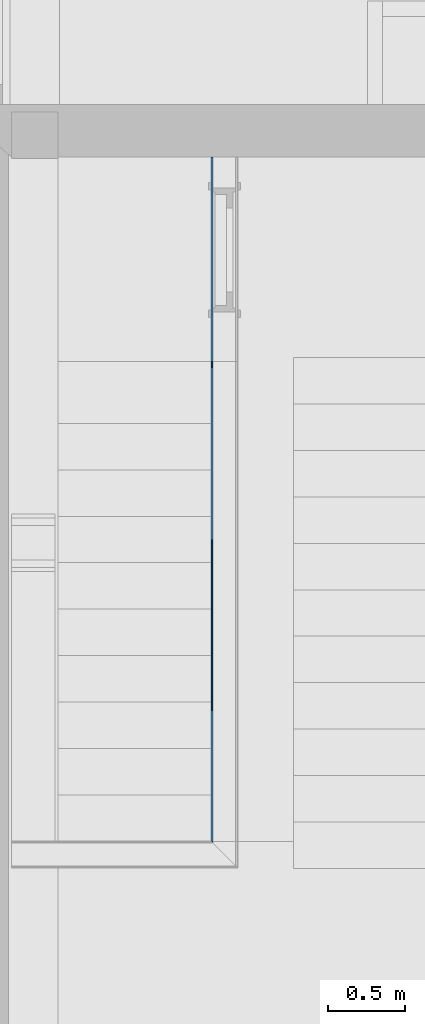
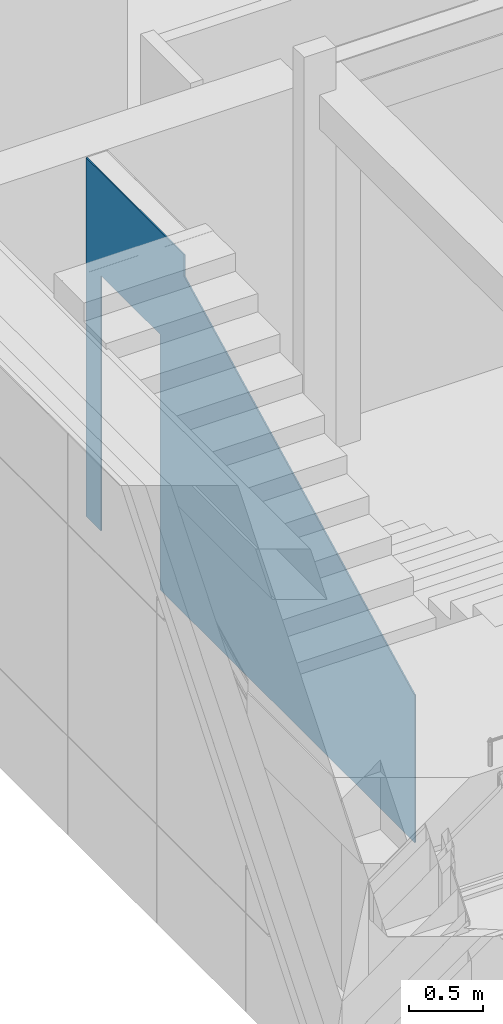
# One storey, part 111 of 418: 1 building element part, 1 opening, 1 element without a shape of its own.
"""IFC2X3 building model written with IfcOpenShell, lengths in millimetres."""

from ifc_helpers import new_model, entity, si_unit, converted_unit, derived_unit, money_unit, direction, frame, origin_with_axes, origin_2d_with_axis, place, context, subcontext, project, spatial, polyline, rectangle, outline, extrude, boolean, faceted_brep, material, type_object, element, aggregate, save


model = new_model("IFC2X3")

# Units and contexts
model_context = context("Model", 3, precision=0.01, world=origin_with_axes(), true_north=direction((0.0, 1.0)))
body_context = subcontext(model_context, "Body", "Model", "MODEL_VIEW")
ifc_project = project(units=[si_unit("LENGTHUNIT", "METRE", prefix="MILLI"), si_unit("AREAUNIT", "SQUARE_METRE"), si_unit("VOLUMEUNIT", "CUBIC_METRE"), converted_unit("PLANEANGLEUNIT", "DEGREE", entity("IfcPlaneAngleMeasure", 0.0174532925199), si_unit("PLANEANGLEUNIT", "RADIAN"), dimensions=[0, 0, 0, 0, 0, 0, 0]), si_unit("SOLIDANGLEUNIT", "STERADIAN"), money_unit("EUR"), converted_unit("TIMEUNIT", "Year", entity("IfcTimeMeasure", 31556926.0), si_unit("TIMEUNIT", "SECOND"), dimensions=[0, 0, 1, 0, 0, 0, 0]), si_unit("MASSUNIT", "GRAM", prefix="KILO"), si_unit("THERMODYNAMICTEMPERATUREUNIT", "DEGREE_CELSIUS"), si_unit("LUMINOUSINTENSITYUNIT", "LUMEN"), si_unit("ENERGYUNIT", "JOULE", prefix="MEGA"), derived_unit("THERMALCONDUCTANCEUNIT", [(si_unit("POWERUNIT", "WATT"), 1), (si_unit("LENGTHUNIT", "METRE"), -1), (si_unit("THERMODYNAMICTEMPERATUREUNIT", "KELVIN"), -1)]), derived_unit("SPECIFICHEATCAPACITYUNIT", [(si_unit("ENERGYUNIT", "JOULE"), 1), (si_unit("MASSUNIT", "GRAM", prefix="KILO"), -1), (si_unit("THERMODYNAMICTEMPERATUREUNIT", "KELVIN"), -1)]), derived_unit("MASSDENSITYUNIT", [(si_unit("MASSUNIT", "GRAM", prefix="KILO"), 1), (si_unit("VOLUMEUNIT", "CUBIC_METRE"), -1)])], contexts=[model_context])

# Site, building, storey
site_placement = place(None, origin_with_axes())
site = spatial("IfcSite", under=ifc_project, at=site_placement, Name="Paldiski mnt 245/1, Tallinn, Harjumaa", CompositionType="COMPLEX")
building_placement = place(site_placement, origin_with_axes())
building = spatial("IfcBuilding", under=site, at=building_placement, Name="RKAS Hoone üldnimetus (kasutust iseloomustav) -> IFC Project Manager -> SOLIBRI", CompositionType="ELEMENT")
storey_placement = place(building_placement, origin_with_axes())
storey = spatial("IfcBuildingStorey", under=building, at=storey_placement, Name="Esimene korrus", CompositionType="ELEMENT", Elevation=0.0)

# Wall, opening, building element part
wall_type = type_object("IfcWallType", Name="SS-04 170", PredefinedType="NOTDEFINED")
wall_placement = place(storey_placement, frame((-46130.0, -6130.08408706, 0.0), z_axis=(0.0, 0.0, 1.0), x_axis=(0.0, -1.0, 0.0)))
wall = element("IfcWall", 1, at=wall_placement, inside=storey, type_object=wall_type, Name="SS-04")
opening_placement = place(wall_placement, frame((940.0, 0.0, 0.0), z_axis=(0.0, 0.0, 1.0), x_axis=(1.0, 0.0, 0.0)))
element("IfcOpeningElement", 2, at=opening_placement, cuts=wall, Name="TSU-08v", context=body_context, shape_type="SweptSolid", body=[
    extrude(rectangle(XDim=800.0, YDim=2100.0, at=origin_2d_with_axis()), frame((0.0, -145.0, 1050.0), z_axis=(0.0, 1.0, 0.0), x_axis=(-1.0, 0.0, 0.0)), (0.0, 0.0, 1.0), 315.0),
    extrude(rectangle(XDim=800.0, YDim=2100.0, at=origin_2d_with_axis()), frame((0.0, -145.0, 1050.0), z_axis=(0.0, -1.0, 0.0), x_axis=(-1.0, 0.0, 0.0)), (0.0, 0.0, 1.0), 195.0),
    extrude(rectangle(XDim=874.0, YDim=2137.0, at=origin_2d_with_axis()), frame((0.0, 0.0, 1068.5), z_axis=(0.0, 1.0, 0.0), x_axis=(-1.0, 0.0, 0.0)), (0.0, 0.0, 1.0), 195.0),
    extrude(rectangle(XDim=874.0, YDim=2137.0, at=origin_2d_with_axis()), frame((0.0, -170.0, 1068.5), z_axis=(0.0, -1.0, 0.0), x_axis=(-1.0, 0.0, 0.0)), (0.0, 0.0, 1.0), 195.0),
])
ifc_material = material(Name="Krohv")
building_element_part_placement = place(wall_placement, origin_with_axes())
building_element_part = element("IfcBuildingElementPart", 3, at=building_element_part_placement, material=ifc_material, Name="Krohv", context=body_context, shape_type="CSG", body=[
    boolean("DIFFERENCE", boolean("DIFFERENCE", boolean("DIFFERENCE", boolean("DIFFERENCE", boolean("DIFFERENCE", boolean("DIFFERENCE", extrude(outline(polyline([(0.0, -170.0), (4930.41676623, -170.0), (4930.41676623, -160.0), (0.0, -160.0), (0.0, -170.0)])), origin_with_axes(), (0.0, 0.0, 1.0), 2950.0), faceted_brep([(1835.41676623, 0.0, 2685.9945005), (1660.416771, 0.0, 2774.02480113), (1660.416771, 0.0, 2950.0), (4930.41676623, 0.0, 2950.0), (4930.41676623, -8.31200708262e-06, 1214.63086414), (4760.41676623, 0.0, 1214.63086414), (4685.41676623, 0.0, 1252.35813686), (4660.41676623, 0.0, 1264.93389444), (4610.41676623, 0.0, 1290.08540959), (4560.41676623, 0.0, 1315.23692474), (4535.41676623, 0.0, 1327.81268232), (4460.41676623, 0.0, 1365.53995505), (4385.41676623, 0.0, 1403.26722777), (4360.41676623, 0.0, 1415.84298535), (4310.41676623, 0.0, 1440.9945005), (4260.41676623, 0.0, 1466.14601565), (4235.41676623, 0.0, 1478.72177323), (4160.41676623, 0.0, 1516.44904596), (4060.41676623, 0.0, 1566.75207626), (3960.41676623, 0.0, 1617.05510656), (3860.41676623, 0.0, 1667.35813686), (3785.41676623, 0.0, 1705.08540959), (3710.41676623, 0.0, 1742.81268232), (3635.41676623, 0.0, 1780.53995505), (3560.41676623, 0.0, 1818.26722777), (3485.41676623, 0.0, 1855.9945005), (3460.41676623, 0.0, 1868.57025808), (3410.41676623, 0.0, 1893.72177323), (3360.41676623, 0.0, 1918.87328838), (3335.41676623, 0.0, 1931.44904596), (3260.41676623, 0.0, 1969.17631868), (3160.41676623, 0.0, 2019.47934899), (3060.41676623, 0.0, 2069.78237929), (2960.41676623, 0.0, 2120.08540959), (2885.41676623, 0.0, 2157.81268232), (2810.41676623, 0.0, 2195.53995505), (2735.41676623, 0.0, 2233.26722777), (2660.41676623, 0.0, 2270.9945005), (2585.41676623, 0.0, 2308.72177323), (2560.41676623, 0.0, 2321.2975308), (2510.41676623, 0.0, 2346.44904596), (2460.41676623, 0.0, 2371.60056111), (2435.41676623, 0.0, 2384.17631868), (2360.41676623, 0.0, 2421.90359141), (2260.41676623, 0.0, 2472.20662171), (2160.41676623, 0.0, 2522.50965202), (2060.41676623, 0.0, 2572.81268232), (1985.41676623, 0.0, 2610.53995505), (1910.41676623, 0.0, 2648.26722777), (1835.41676623, -10.0, 2685.9945005), (1660.416771, -10.0, 2774.02480113), (1660.416771, -10.00000327, 2950.0), (4930.41676623, -10.0, 2950.0), (4930.41676359, -10.0000038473, 1214.63086414), (4760.41676623, -10.0000093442, 1214.63086414), (4685.41676623, -10.0, 1252.35813686), (4660.41676623, -10.0, 1264.93389444), (4610.41676623, -10.0, 1290.08540959), (4560.41676623, -10.0, 1315.23692474), (4535.41676623, -10.0, 1327.81268232), (4460.41676623, -10.0, 1365.53995505), (4385.41676623, -10.0, 1403.26722777), (4360.41676623, -10.0, 1415.84298535), (4310.41676623, -10.0, 1440.9945005), (4260.41676623, -10.0, 1466.14601565), (4235.41676623, -10.0, 1478.72177323), (4160.41676623, -10.0, 1516.44904596), (4060.41676623, -10.0, 1566.75207626), (3960.41676623, -10.0, 1617.05510656), (3860.41676623, -10.0, 1667.35813686), (3785.41676623, -10.0, 1705.08540959), (3710.41676623, -10.0, 1742.81268232), (3635.41676623, -10.0, 1780.53995505), (3560.41676623, -10.0, 1818.26722777), (3485.41676623, -10.0, 1855.9945005), (3460.41676623, -10.0, 1868.57025808), (3410.41676623, -10.0, 1893.72177323), (3360.41676623, -10.0, 1918.87328838), (3335.41676623, -10.0, 1931.44904596), (3260.41676623, -10.0, 1969.17631868), (3160.41676623, -10.0, 2019.47934899), (3060.41676623, -10.0, 2069.78237929), (2960.41676623, -10.0, 2120.08540959), (2885.41676623, -10.0, 2157.81268232), (2810.41676623, -10.0, 2195.53995505), (2735.41676623, -10.0, 2233.26722777), (2660.41676623, -10.0, 2270.9945005), (2585.41676623, -10.0, 2308.72177323), (2560.41676623, -10.0, 2321.2975308), (2510.41676623, -10.0, 2346.44904596), (2460.41676623, -10.0, 2371.60056111), (2435.41676623, -10.0, 2384.17631868), (2360.41676623, -10.0, 2421.90359141), (2260.41676623, -10.0, 2472.20662171), (2160.41676623, -10.0, 2522.50965202), (2060.41676623, -10.0, 2572.81268232), (1985.41676623, -10.0, 2610.53995505), (1910.41676623, -10.0, 2648.26722777)], [[[0, 1, 2, 3, 4, 5, 6, 7, 8, 9, 10, 11, 12, 13, 14, 15, 16, 17, 18, 19, 20, 21, 22, 23, 24, 25, 26, 27, 28, 29, 30, 31, 32, 33, 34, 35, 36, 37, 38, 39, 40, 41, 42, 43, 44, 45, 46, 47, 48]], [[1, 0, 49, 50]], [[51, 2, 1, 50]], [[2, 51, 52, 3]], [[53, 4, 3, 52]], [[5, 4, 53, 54]], [[6, 5, 54, 55]], [[7, 6, 55, 56]], [[8, 7, 56, 57]], [[9, 8, 57, 58]], [[10, 9, 58, 59]], [[11, 10, 59, 60]], [[12, 11, 60, 61]], [[13, 12, 61, 62]], [[14, 13, 62, 63]], [[15, 14, 63, 64]], [[16, 15, 64, 65]], [[17, 16, 65, 66]], [[18, 17, 66, 67]], [[19, 18, 67, 68]], [[20, 19, 68, 69]], [[21, 20, 69, 70]], [[22, 21, 70, 71]], [[23, 22, 71, 72]], [[24, 23, 72, 73]], [[25, 24, 73, 74]], [[26, 25, 74, 75]], [[27, 26, 75, 76]], [[28, 27, 76, 77]], [[29, 28, 77, 78]], [[30, 29, 78, 79]], [[31, 30, 79, 80]], [[32, 31, 80, 81]], [[33, 32, 81, 82]], [[34, 33, 82, 83]], [[35, 34, 83, 84]], [[36, 35, 84, 85]], [[37, 36, 85, 86]], [[38, 37, 86, 87]], [[39, 38, 87, 88]], [[40, 39, 88, 89]], [[41, 40, 89, 90]], [[42, 41, 90, 91]], [[43, 42, 91, 92]], [[44, 43, 92, 93]], [[45, 44, 93, 94]], [[46, 45, 94, 95]], [[47, 46, 95, 96]], [[48, 47, 96, 97]], [[0, 48, 97, 49]], [[53, 52, 51, 50, 49, 97, 96, 95, 94, 93, 92, 91, 90, 89, 88, 87, 86, 85, 84, 83, 82, 81, 80, 79, 78, 77, 76, 75, 74, 73, 72, 71, 70, 69, 68, 67, 66, 65, 64, 63, 62, 61, 60, 59, 58, 57, 56, 55, 54]]])), faceted_brep([(340.0, -10.0000008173, 2950.0), (340.0, -7.27034432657e-07, 2950.0), (0.0, 0.0, 2950.0), (0.0, -10.0, 2950.0), (340.0, 0.0, 0.0), (340.0, -9.99999999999, 0.0), (0.0, 0.0, 0.0), (0.0, -10.0, 0.0)], [[[0, 1, 2, 3]], [[4, 1, 0, 5]], [[1, 4, 6, 2]], [[2, 6, 7, 3]], [[5, 0, 3, 7]], [[4, 5, 7, 6]]])), faceted_brep([(1835.41676623, -10.0, 2685.9945005), (1660.416771, -10.0, 2774.02480113), (1660.416771, -10.00000327, 2950.0), (4930.41676623, -10.0, 2950.0), (4930.41676623, -10.0, 0.0), (4920.41676623, -9.99999999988, 0.0), (4920.41676623, -10.0000093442, 1214.63086414), (4760.41676623, -10.0000093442, 1214.63086414), (4685.41676623, -10.0, 1252.35813686), (4660.41676623, -10.0, 1264.93389444), (4610.41676623, -10.0, 1290.08540959), (4560.41676623, -10.0, 1315.23692474), (4535.41676623, -10.0, 1327.81268232), (4460.41676623, -10.0, 1365.53995505), (4385.41676623, -10.0, 1403.26722777), (4360.41676623, -10.0, 1415.84298535), (4310.41676623, -10.0, 1440.9945005), (4260.41676623, -10.0, 1466.14601565), (4235.41676623, -10.0, 1478.72177323), (4160.41676623, -10.0, 1516.44904596), (4060.41676623, -10.0, 1566.75207626), (3960.41676623, -10.0, 1617.05510656), (3860.41676623, -10.0, 1667.35813686), (3785.41676623, -10.0, 1705.08540959), (3710.41676623, -10.0, 1742.81268232), (3635.41676623, -10.0, 1780.53995505), (3560.41676623, -10.0, 1818.26722777), (3485.41676623, -10.0, 1855.9945005), (3460.41676623, -10.0, 1868.57025808), (3410.41676623, -10.0, 1893.72177323), (3360.41676623, -10.0, 1918.87328838), (3335.41676623, -10.0, 1931.44904596), (3260.41676623, -10.0, 1969.17631868), (3160.41676623, -10.0, 2019.47934899), (3060.41676623, -10.0, 2069.78237929), (2960.41676623, -10.0, 2120.08540959), (2885.41676623, -10.0, 2157.81268232), (2810.41676623, -10.0, 2195.53995505), (2735.41676623, -10.0, 2233.26722777), (2660.41676623, -10.0, 2270.9945005), (2585.41676623, -10.0, 2308.72177323), (2560.41676623, -10.0, 2321.2975308), (2510.41676623, -10.0, 2346.44904596), (2460.41676623, -10.0, 2371.60056111), (2435.41676623, -10.0, 2384.17631868), (2360.41676623, -10.0, 2421.90359141), (2260.41676623, -10.0, 2472.20662171), (2160.41676623, -10.0, 2522.50965202), (2060.41676623, -10.0, 2572.81268232), (1985.41676623, -10.0, 2610.53995505), (1910.41676623, -10.0, 2648.26722777), (1835.41676623, -160.0, 2685.9945005), (1660.416771, -160.0, 2774.02480113), (1660.416771, -159.999999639, 2950.0), (4930.41676623, -160.0, 2950.0), (4930.41676623, -160.0, 0.0), (4920.41676623, -160.0, 0.0), (4920.41676623, -159.999998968, 1214.63086414), (4760.41676623, -159.999998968, 1214.63086414), (4685.41676623, -160.0, 1252.35813686), (4660.41676623, -160.0, 1264.93389444), (4610.41676623, -160.0, 1290.08540959), (4560.41676623, -160.0, 1315.23692474), (4535.41676623, -160.0, 1327.81268232), (4460.41676623, -160.0, 1365.53995505), (4385.41676623, -160.0, 1403.26722777), (4360.41676623, -160.0, 1415.84298535), (4310.41676623, -160.0, 1440.9945005), (4260.41676623, -160.0, 1466.14601565), (4235.41676623, -160.0, 1478.72177323), (4160.41676623, -160.0, 1516.44904596), (4060.41676623, -160.0, 1566.75207626), (3960.41676623, -160.0, 1617.05510656), (3860.41676623, -160.0, 1667.35813686), (3785.41676623, -160.0, 1705.08540959), (3710.41676623, -160.0, 1742.81268232), (3635.41676623, -160.0, 1780.53995505), (3560.41676623, -160.0, 1818.26722777), (3485.41676623, -160.0, 1855.9945005), (3460.41676623, -160.0, 1868.57025808), (3410.41676623, -160.0, 1893.72177323), (3360.41676623, -160.0, 1918.87328838), (3335.41676623, -160.0, 1931.44904596), (3260.41676623, -160.0, 1969.17631868), (3160.41676623, -160.0, 2019.47934899), (3060.41676623, -160.0, 2069.78237929), (2960.41676623, -160.0, 2120.08540959), (2885.41676623, -160.0, 2157.81268232), (2810.41676623, -160.0, 2195.53995505), (2735.41676623, -160.0, 2233.26722777), (2660.41676623, -160.0, 2270.9945005), (2585.41676623, -160.0, 2308.72177323), (2560.41676623, -160.0, 2321.2975308), (2510.41676623, -160.0, 2346.44904596), (2460.41676623, -160.0, 2371.60056111), (2435.41676623, -160.0, 2384.17631868), (2360.41676623, -160.0, 2421.90359141), (2260.41676623, -160.0, 2472.20662171), (2160.41676623, -160.0, 2522.50965202), (2060.41676623, -160.0, 2572.81268232), (1985.41676623, -160.0, 2610.53995505), (1910.41676623, -160.0, 2648.26722777)], [[[0, 1, 2, 3, 4, 5, 6, 7, 8, 9, 10, 11, 12, 13, 14, 15, 16, 17, 18, 19, 20, 21, 22, 23, 24, 25, 26, 27, 28, 29, 30, 31, 32, 33, 34, 35, 36, 37, 38, 39, 40, 41, 42, 43, 44, 45, 46, 47, 48, 49, 50]], [[1, 0, 51, 52]], [[53, 2, 1, 52]], [[2, 53, 54, 3]], [[54, 55, 4, 3]], [[56, 5, 4, 55]], [[6, 5, 56, 57]], [[57, 58, 7, 6]], [[8, 7, 58, 59]], [[9, 8, 59, 60]], [[10, 9, 60, 61]], [[11, 10, 61, 62]], [[12, 11, 62, 63]], [[13, 12, 63, 64]], [[14, 13, 64, 65]], [[15, 14, 65, 66]], [[16, 15, 66, 67]], [[17, 16, 67, 68]], [[18, 17, 68, 69]], [[19, 18, 69, 70]], [[20, 19, 70, 71]], [[21, 20, 71, 72]], [[22, 21, 72, 73]], [[23, 22, 73, 74]], [[24, 23, 74, 75]], [[25, 24, 75, 76]], [[26, 25, 76, 77]], [[27, 26, 77, 78]], [[28, 27, 78, 79]], [[29, 28, 79, 80]], [[30, 29, 80, 81]], [[31, 30, 81, 82]], [[32, 31, 82, 83]], [[33, 32, 83, 84]], [[34, 33, 84, 85]], [[35, 34, 85, 86]], [[36, 35, 86, 87]], [[37, 36, 87, 88]], [[38, 37, 88, 89]], [[39, 38, 89, 90]], [[40, 39, 90, 91]], [[41, 40, 91, 92]], [[42, 41, 92, 93]], [[43, 42, 93, 94]], [[44, 43, 94, 95]], [[45, 44, 95, 96]], [[46, 45, 96, 97]], [[47, 46, 97, 98]], [[48, 47, 98, 99]], [[49, 48, 99, 100]], [[50, 49, 100, 101]], [[0, 50, 101, 51]], [[57, 56, 55, 54, 53, 52, 51, 101, 100, 99, 98, 97, 96, 95, 94, 93, 92, 91, 90, 89, 88, 87, 86, 85, 84, 83, 82, 81, 80, 79, 78, 77, 76, 75, 74, 73, 72, 71, 70, 69, 68, 67, 66, 65, 64, 63, 62, 61, 60, 59, 58]]])), faceted_brep([(340.0, -159.99999991, 2950.0), (340.0, -10.0000008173, 2950.0), (0.0, -10.0, 2950.0), (0.0, -160.0, 2950.0), (340.0, -160.0, 0.0), (340.0, -9.99999999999, 0.0), (0.0, -10.0, 0.0), (0.0, -160.0, 0.0)], [[[0, 1, 2, 3]], [[1, 0, 4, 5]], [[1, 5, 6, 2]], [[2, 6, 7, 3]], [[4, 0, 3, 7]], [[5, 4, 7, 6]]])), faceted_brep([(1835.41676623, -160.0, 2685.9945005), (1660.416771, -160.0, 2774.02480113), (1660.416771, -159.999999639, 2950.0), (4930.41676623, -160.0, 2950.0), (4930.41676623, -160.0, 0.0), (4770.41676623, -160.0, 0.0), (4770.41676623, -159.999998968, 1214.63086414), (4760.41676623, -159.999998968, 1214.63086414), (4685.41676623, -160.0, 1252.35813686), (4660.41676623, -160.0, 1264.93389444), (4610.41676623, -160.0, 1290.08540959), (4560.41676623, -160.0, 1315.23692474), (4535.41676623, -160.0, 1327.81268232), (4460.41676623, -160.0, 1365.53995505), (4385.41676623, -160.0, 1403.26722777), (4360.41676623, -160.0, 1415.84298535), (4310.41676623, -160.0, 1440.9945005), (4260.41676623, -160.0, 1466.14601565), (4235.41676623, -160.0, 1478.72177323), (4160.41676623, -160.0, 1516.44904596), (4060.41676623, -160.0, 1566.75207626), (3960.41676623, -160.0, 1617.05510656), (3860.41676623, -160.0, 1667.35813686), (3785.41676623, -160.0, 1705.08540959), (3710.41676623, -160.0, 1742.81268232), (3635.41676623, -160.0, 1780.53995505), (3560.41676623, -160.0, 1818.26722777), (3485.41676623, -160.0, 1855.9945005), (3460.41676623, -160.0, 1868.57025808), (3410.41676623, -160.0, 1893.72177323), (3360.41676623, -160.0, 1918.87328838), (3335.41676623, -160.0, 1931.44904596), (3260.41676623, -160.0, 1969.17631868), (3160.41676623, -160.0, 2019.47934899), (3060.41676623, -160.0, 2069.78237929), (2960.41676623, -160.0, 2120.08540959), (2885.41676623, -160.0, 2157.81268232), (2810.41676623, -160.0, 2195.53995505), (2735.41676623, -160.0, 2233.26722777), (2660.41676623, -160.0, 2270.9945005), (2585.41676623, -160.0, 2308.72177323), (2560.41676623, -160.0, 2321.2975308), (2510.41676623, -160.0, 2346.44904596), (2460.41676623, -160.0, 2371.60056111), (2435.41676623, -160.0, 2384.17631868), (2360.41676623, -160.0, 2421.90359141), (2260.41676623, -160.0, 2472.20662171), (2160.41676623, -160.0, 2522.50965202), (2060.41676623, -160.0, 2572.81268232), (1985.41676623, -160.0, 2610.53995505), (1910.41676623, -160.0, 2648.26722777), (1835.41676623, -170.0, 2685.9945005), (1660.416771, -170.0, 2774.02480113), (1660.416771, -170.0, 2950.0), (4930.41676623, -170.0, 2950.0), (4930.41676623, -170.0, 0.0), (4770.41676623, -170.0, 0.0), (4770.41676623, -170.0, 1214.63086414), (4760.41676623, -170.0, 1214.63086414), (4685.41676623, -170.0, 1252.35813686), (4660.41676623, -170.0, 1264.93389444), (4610.41676623, -170.0, 1290.08540959), (4560.41676623, -170.0, 1315.23692474), (4535.41676623, -170.0, 1327.81268232), (4460.41676623, -170.0, 1365.53995505), (4385.41676623, -170.0, 1403.26722777), (4360.41676623, -170.0, 1415.84298535), (4310.41676623, -170.0, 1440.9945005), (4260.41676623, -170.0, 1466.14601565), (4235.41676623, -170.0, 1478.72177323), (4160.41676623, -170.0, 1516.44904596), (4060.41676623, -170.0, 1566.75207626), (3960.41676623, -170.0, 1617.05510656), (3860.41676623, -170.0, 1667.35813686), (3785.41676623, -170.0, 1705.08540959), (3710.41676623, -170.0, 1742.81268232), (3635.41676623, -170.0, 1780.53995505), (3560.41676623, -170.0, 1818.26722777), (3485.41676623, -170.0, 1855.9945005), (3460.41676623, -170.0, 1868.57025808), (3410.41676623, -170.0, 1893.72177323), (3360.41676623, -170.0, 1918.87328838), (3335.41676623, -170.0, 1931.44904596), (3260.41676623, -170.0, 1969.17631868), (3160.41676623, -170.0, 2019.47934899), (3060.41676623, -170.0, 2069.78237929), (2960.41676623, -170.0, 2120.08540959), (2885.41676623, -170.0, 2157.81268232), (2810.41676623, -170.0, 2195.53995505), (2735.41676623, -170.0, 2233.26722777), (2660.41676623, -170.0, 2270.9945005), (2585.41676623, -170.0, 2308.72177323), (2560.41676623, -170.0, 2321.2975308), (2510.41676623, -170.0, 2346.44904596), (2460.41676623, -170.0, 2371.60056111), (2435.41676623, -170.0, 2384.17631868), (2360.41676623, -170.0, 2421.90359141), (2260.41676623, -170.0, 2472.20662171), (2160.41676623, -170.0, 2522.50965202), (2060.41676623, -170.0, 2572.81268232), (1985.41676623, -170.0, 2610.53995505), (1910.41676623, -170.0, 2648.26722777)], [[[0, 1, 2, 3, 4, 5, 6, 7, 8, 9, 10, 11, 12, 13, 14, 15, 16, 17, 18, 19, 20, 21, 22, 23, 24, 25, 26, 27, 28, 29, 30, 31, 32, 33, 34, 35, 36, 37, 38, 39, 40, 41, 42, 43, 44, 45, 46, 47, 48, 49, 50]], [[1, 0, 51, 52]], [[53, 2, 1, 52]], [[2, 53, 54, 3]], [[54, 55, 4, 3]], [[56, 5, 4, 55]], [[6, 5, 56, 57]], [[57, 58, 7, 6]], [[8, 7, 58, 59]], [[9, 8, 59, 60]], [[10, 9, 60, 61]], [[11, 10, 61, 62]], [[12, 11, 62, 63]], [[13, 12, 63, 64]], [[14, 13, 64, 65]], [[15, 14, 65, 66]], [[16, 15, 66, 67]], [[17, 16, 67, 68]], [[18, 17, 68, 69]], [[19, 18, 69, 70]], [[20, 19, 70, 71]], [[21, 20, 71, 72]], [[22, 21, 72, 73]], [[23, 22, 73, 74]], [[24, 23, 74, 75]], [[25, 24, 75, 76]], [[26, 25, 76, 77]], [[27, 26, 77, 78]], [[28, 27, 78, 79]], [[29, 28, 79, 80]], [[30, 29, 80, 81]], [[31, 30, 81, 82]], [[32, 31, 82, 83]], [[33, 32, 83, 84]], [[34, 33, 84, 85]], [[35, 34, 85, 86]], [[36, 35, 86, 87]], [[37, 36, 87, 88]], [[38, 37, 88, 89]], [[39, 38, 89, 90]], [[40, 39, 90, 91]], [[41, 40, 91, 92]], [[42, 41, 92, 93]], [[43, 42, 93, 94]], [[44, 43, 94, 95]], [[45, 44, 95, 96]], [[46, 45, 96, 97]], [[47, 46, 97, 98]], [[48, 47, 98, 99]], [[49, 48, 99, 100]], [[50, 49, 100, 101]], [[0, 50, 101, 51]], [[57, 56, 55, 54, 53, 52, 51, 101, 100, 99, 98, 97, 96, 95, 94, 93, 92, 91, 90, 89, 88, 87, 86, 85, 84, 83, 82, 81, 80, 79, 78, 77, 76, 75, 74, 73, 72, 71, 70, 69, 68, 67, 66, 65, 64, 63, 62, 61, 60, 59, 58]]])), faceted_brep([(340.0, -170.0, 2950.0), (340.0, -159.99999991, 2950.0), (0.0, -160.0, 2950.0), (0.0, -170.0, 2950.0), (340.0, -170.0, 0.0), (340.0, -160.0, 0.0), (0.0, -160.0, 0.0), (0.0, -170.0, 0.0)], [[[0, 1, 2, 3]], [[1, 0, 4, 5]], [[1, 5, 6, 2]], [[2, 6, 7, 3]], [[4, 0, 3, 7]], [[5, 4, 7, 6]]])),
])
aggregate(wall, [building_element_part])

save(model, "model.ifc")
